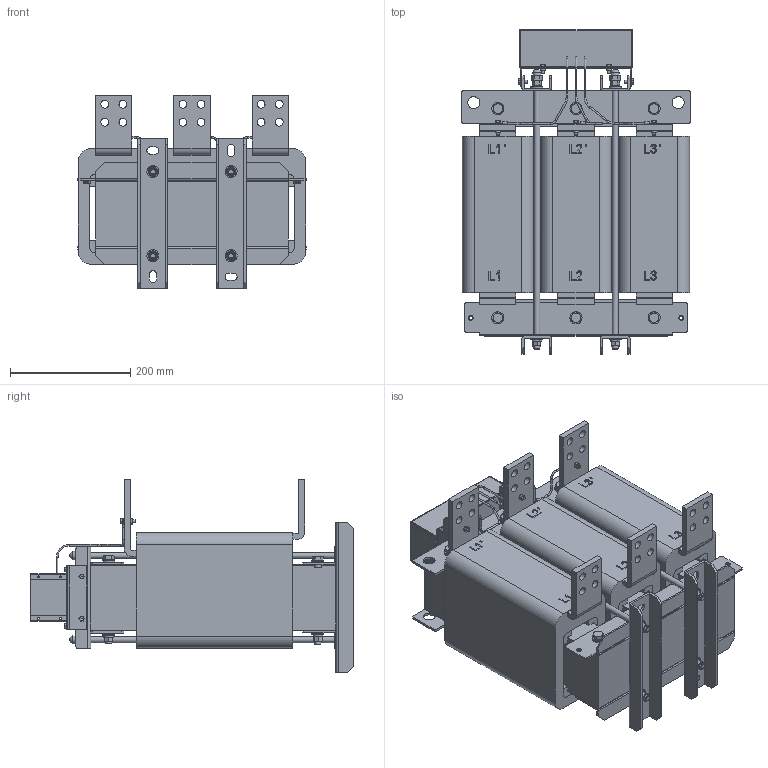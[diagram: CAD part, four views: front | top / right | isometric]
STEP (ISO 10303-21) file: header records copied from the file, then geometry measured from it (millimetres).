
FILE_DESCRIPTION(('STEP AP203'), '1');
FILE_NAME('IDUDT-560_1100-4 _ dU_dt ôèëüòð 560 êÂò', '', ('UNSPECIFIED'), ('UNSPECIFIED'), 'C3D Converter', 'C3D Toolkit', '');
FILE_SCHEMA(('CONFIG_CONTROL_DESIGN'));
Length unit declared in the file: millimetre
Products named in the file (23): IDUDT-630/1250-4
Assembly tree (80 placements, depth 3):
  IDUDT-630/1250-4
    (unnamed)
    (unnamed)  x6
    (unnamed)  x2
    (unnamed)
    (unnamed)
    (unnamed)  x2
    (unnamed)  x2
    (unnamed)  x8
      (unnamed)
      (unnamed)
      (unnamed)
    (unnamed)  x4
    (unnamed)  x4
    (unnamed)  x12
    (unnamed)  x6
      (unnamed)
      (unnamed)
      (unnamed)
    (unnamed)  x6
    (unnamed)
    (unnamed)  x3
    (unnamed)  x3
    (unnamed)
    (unnamed)
    (unnamed)  x8
    (unnamed)
Bounding box: 380 x 539 x 322 mm (x, y, z)
Volume: 21433041.7 mm3; surface area: 2694365.7 mm2
Topology: 133 solids, 133 shells, 1853 faces, 4270 edges, 2756 vertices
Faces by surface type: plane 1097, cylinder 444, cone 232, bspline 57, torus 19, sphere 4
Full cylindrical faces by diameter (mm): 3 x19, 3.2 x16, 4.465 x1, 5 x22, 5.417 x2, 5.558 x3, 6 x4, 6.917 x14, 7 x3, 8 x4, 8.422 x4, 9 x3, 10 x12, 10.9 x14, 11 x34, 11.63 x14, 12 x12, 13 x24, 14 x18, 16 x12, 16.1 x14, 20 x36
Entity records: 53697 total; most frequent: CARTESIAN_POINT 23154, ORIENTED_EDGE 4118, DIRECTION 4080, EDGE_CURVE 2059, AXIS2_PLACEMENT_3D 1452, VERTEX_POINT 1439, EDGE_LOOP 1240, LINE 1176
